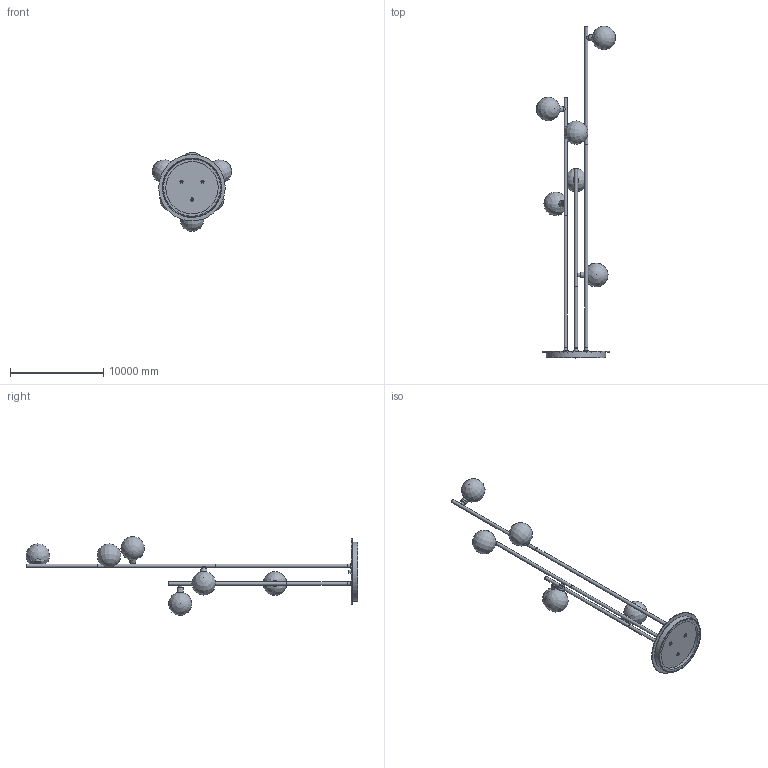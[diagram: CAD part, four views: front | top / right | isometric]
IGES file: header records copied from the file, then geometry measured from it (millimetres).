
Global section: file name: Nabila Floor Lamp; native system: AutoCAD 2022 - 简体中文 (Simplified Chinese),62HAuto; preprocessor: desk Translation Framework DWG producer (atf_dwg_producer); organization: unknown; date: 20251013.162341; units: inch
Bounding box: 8471.41 x 35560 x 8455.77 mm (x, y, z)
Volume: 28574828583.9 mm3; surface area: 681473965.8 mm2
Topology: 58 solids, 58 shells, 572 faces, 1343 edges, 892 vertices
Faces by surface type: bspline 572
